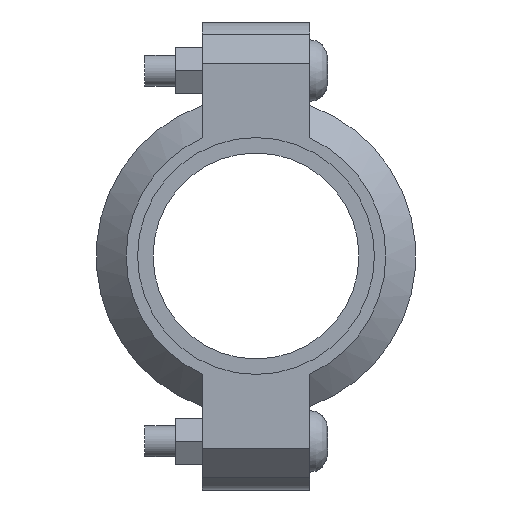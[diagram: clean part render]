
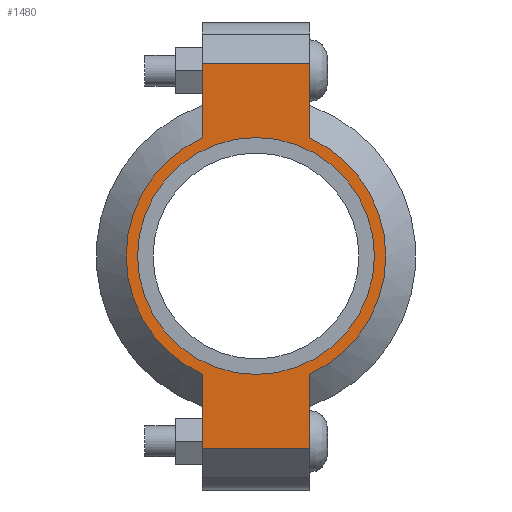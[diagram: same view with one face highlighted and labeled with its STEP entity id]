
A CAD part, left-side view. The second image highlights one B-rep face of the part: STEP entity #1480.
In plain terms, the highlighted planar face has unit normal (-1, 0, 0) as drawn and (0, 0, 1) by its records, which use the part's own axes.
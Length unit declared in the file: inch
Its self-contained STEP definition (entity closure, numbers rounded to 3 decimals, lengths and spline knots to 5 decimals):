
#160=LINE('',#2567,#251);
#168=LINE('',#2603,#259);
#175=LINE('',#2624,#266);
#184=LINE('',#2656,#275);
#185=LINE('',#2660,#276);
#186=LINE('',#2662,#277);
#251=VECTOR('',#2077,0.3937);
#259=VECTOR('',#2093,0.3937);
#266=VECTOR('',#2112,0.3937);
#275=VECTOR('',#2137,0.3937);
#276=VECTOR('',#2142,0.3937);
#277=VECTOR('',#2143,0.3937);
#329=FACE_BOUND('',#489,.T.);
#393=FACE_OUTER_BOUND('',#488,.T.);
#488=EDGE_LOOP('',(#1215,#1216,#1217,#1218,#1219,#1220,#1221,#1222));
#489=EDGE_LOOP('',(#1223));
#586=CIRCLE('',#1741,1.575);
#587=CIRCLE('',#1742,1.575);
#588=CIRCLE('',#1743,1.4375);
#691=VERTEX_POINT('',#2564);
#692=VERTEX_POINT('',#2566);
#703=VERTEX_POINT('',#2598);
#704=VERTEX_POINT('',#2602);
#711=VERTEX_POINT('',#2621);
#712=VERTEX_POINT('',#2623);
#722=VERTEX_POINT('',#2659);
#723=VERTEX_POINT('',#2661);
#724=VERTEX_POINT('',#2664);
#855=EDGE_CURVE('',#692,#691,#160,.T.);
#869=EDGE_CURVE('',#704,#703,#168,.T.);
#879=EDGE_CURVE('',#712,#711,#175,.T.);
#894=EDGE_CURVE('',#704,#691,#184,.T.);
#895=EDGE_CURVE('',#703,#712,#586,.T.);
#896=EDGE_CURVE('',#722,#711,#185,.T.);
#897=EDGE_CURVE('',#722,#723,#186,.T.);
#898=EDGE_CURVE('',#723,#692,#587,.T.);
#899=EDGE_CURVE('',#724,#724,#588,.T.);
#1215=ORIENTED_EDGE('',*,*,#894,.F.);
#1216=ORIENTED_EDGE('',*,*,#869,.T.);
#1217=ORIENTED_EDGE('',*,*,#895,.T.);
#1218=ORIENTED_EDGE('',*,*,#879,.T.);
#1219=ORIENTED_EDGE('',*,*,#896,.F.);
#1220=ORIENTED_EDGE('',*,*,#897,.T.);
#1221=ORIENTED_EDGE('',*,*,#898,.T.);
#1222=ORIENTED_EDGE('',*,*,#855,.T.);
#1223=ORIENTED_EDGE('',*,*,#899,.T.);
#1334=PLANE('',#1740);
#1480=ADVANCED_FACE('',(#393,#329),#1334,.T.);
#1740=AXIS2_PLACEMENT_3D('',#2657,#2138,#2139);
#1741=AXIS2_PLACEMENT_3D('',#2658,#2140,#2141);
#1742=AXIS2_PLACEMENT_3D('',#2663,#2144,#2145);
#1743=AXIS2_PLACEMENT_3D('',#2665,#2146,#2147);
#2077=DIRECTION('',(1.,0.,0.));
#2093=DIRECTION('',(-1.,0.,0.));
#2112=DIRECTION('',(-1.,0.,0.));
#2137=DIRECTION('',(0.,-1.,0.));
#2138=DIRECTION('center_axis',(0.,0.,1.));
#2139=DIRECTION('ref_axis',(-1.,0.,0.));
#2140=DIRECTION('center_axis',(0.,0.,1.));
#2141=DIRECTION('ref_axis',(1.,0.,0.));
#2142=DIRECTION('',(0.,1.,0.));
#2143=DIRECTION('',(1.,0.,0.));
#2144=DIRECTION('center_axis',(0.,0.,1.));
#2145=DIRECTION('ref_axis',(1.,0.,0.));
#2146=DIRECTION('center_axis',(0.,0.,-1.));
#2147=DIRECTION('ref_axis',(1.,0.,0.));
#2564=CARTESIAN_POINT('',(2.34,-0.65,0.94));
#2566=CARTESIAN_POINT('',(1.43462,-0.65,0.94));
#2567=CARTESIAN_POINT('',(2.84,-0.65,0.94));
#2598=CARTESIAN_POINT('',(1.43462,0.65,0.94));
#2602=CARTESIAN_POINT('',(2.34,0.65,0.94));
#2603=CARTESIAN_POINT('',(-2.84,0.65,0.94));
#2621=CARTESIAN_POINT('',(-2.34,0.65,0.94));
#2623=CARTESIAN_POINT('',(-1.43462,0.65,0.94));
#2624=CARTESIAN_POINT('',(-2.84,0.65,0.94));
#2656=CARTESIAN_POINT('',(2.34,-0.325,0.94));
#2657=CARTESIAN_POINT('Origin',(0.,0.,
0.94));
#2658=CARTESIAN_POINT('Origin',(0.,0.,0.94));
#2659=CARTESIAN_POINT('',(-2.34,-0.65,0.94));
#2660=CARTESIAN_POINT('',(-2.34,0.325,0.94));
#2661=CARTESIAN_POINT('',(-1.43462,-0.65,0.94));
#2662=CARTESIAN_POINT('',(2.84,-0.65,0.94));
#2663=CARTESIAN_POINT('Origin',(0.,0.,0.94));
#2664=CARTESIAN_POINT('',(-1.4375,0.,0.94));
#2665=CARTESIAN_POINT('Origin',(0.,0.,0.94));
